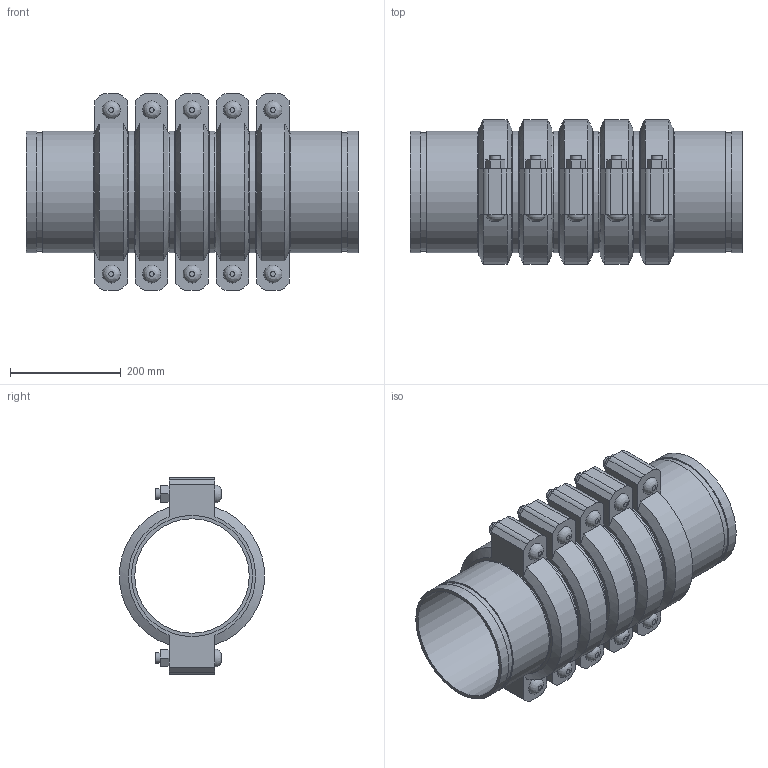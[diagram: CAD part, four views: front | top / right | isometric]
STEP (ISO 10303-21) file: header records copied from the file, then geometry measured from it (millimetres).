
FILE_DESCRIPTION(/* description */ ('VIC SS EXPANSION JOINT 5 COUPLINGS NEUTRAL STYLE 155P (OGS) (POTABLE WATER) ','CAx-IF Rec.Pracs.---Representation and Presentation of Product Manufacturing Information (PMI)---4.0---2014-10-13'),/* implementation_level */ '2;1');
FILE_NAME(/* name */ 'C:\Users\kkamble\AppData\Roaming\Autodesk\ApplicationPlugins\Victaulic.Temp\A327\Victaulic_SS_Expansion Joint_Neutral_5 Couplings_Style 155P (OGS)-Potable Water_5 Coup_Neut_8 (200).stp',/* time_stamp */ '2021-07-16T16:34:59+05:00',/* author */ ('kkamble'),/* organization */ ('Victaulic'),/* preprocessor_version */ 'ST-DEVELOPER v17.2',/* originating_system */ 'Autodesk Inventor 2019',/* authorisation */ '');
FILE_SCHEMA (('AP242_MANAGED_MODEL_BASED_3D_ENGINEERING_MIM_LF { 1 0 10303 442 1 1 4 }'));
Length unit declared in the file: inch
Products named in the file (4): 155P-08.0; Nipple-08.0; Nipple-08.0_1; 075-08.0
Assembly tree (11 placements, depth 2):
  155P-08.0
    Nipple-08.0  x2
    Nipple-08.0_1  x4
    075-08.0  x5
Bounding box: 600.2 x 261.72 x 354.84 mm (x, y, z)
Volume: 9021926.3 mm3; surface area: 1719355.4 mm2
Topology: 11 solids, 21 shells, 357 faces, 845 edges, 594 vertices
Faces by surface type: plane 216, cylinder 111, cone 20, bspline 10
Full cylindrical faces by diameter (mm): 19.05 x20, 21.209 x10, 206.985 x6, 212.725 x5, 214.401 x12, 219.075 x28
Entity records: 2801 total; most frequent: CARTESIAN_POINT 495, DIRECTION 465, ORIENTED_EDGE 386, EDGE_CURVE 193, AXIS2_PLACEMENT_3D 186, VERTEX_POINT 138, EDGE_LOOP 107, LINE 93
